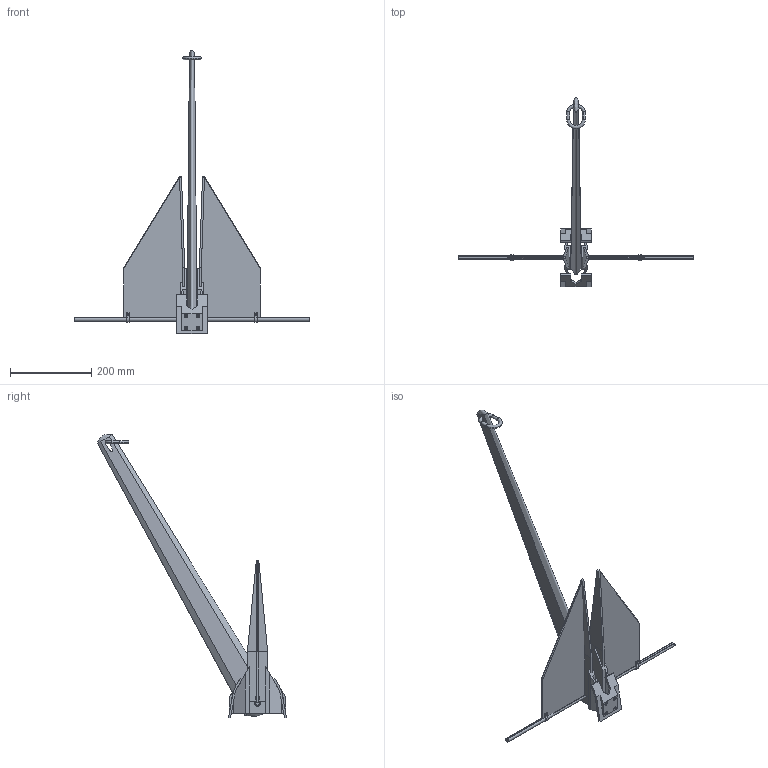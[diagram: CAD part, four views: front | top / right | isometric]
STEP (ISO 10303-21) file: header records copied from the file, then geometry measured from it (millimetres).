
FILE_DESCRIPTION (( 'STEP AP214' ), '1' );
FILE_NAME ('danforth anchor.step', '2013-09-27T15:32:43', ( 'Jared Garber' ), ( '' ), 'SwSTEP 2.0', 'SolidWorks 2011', '' );
FILE_SCHEMA (( 'AUTOMOTIVE_DESIGN' ));
Length unit declared in the file: millimetre
Products named in the file (9): shackle; socket countersunk head cap screw_ai_SCHCSCREW 0.164-32x0.375x0.375-HX-C; tripping palm - top plate; tripping palm; fluke stock mount clip; shank; fluke; stock; danforth anchor
Assembly tree (18 placements, depth 2):
  danforth anchor
    socket countersunk head cap screw_ai_SCHCSCREW 0.164-32x0.375x0.375-HX-C  x8
    tripping palm - top plate  x2
    fluke stock mount clip  x2
    shackle
    stock
    fluke  x2
    shank
    tripping palm
Bounding box: 580 x 465.65 x 698.78 mm (x, y, z)
Volume: 1557049.7 mm3; surface area: 445150.7 mm2
Topology: 18 solids, 18 shells, 444 faces, 1105 edges, 678 vertices
Faces by surface type: plane 270, cylinder 100, cone 64, torus 6, bspline 4
Entity records: 7772 total; most frequent: CARTESIAN_POINT 2045, DIRECTION 1068, ORIENTED_EDGE 1060, EDGE_CURVE 530, LINE 388, VECTOR 388, VERTEX_POINT 341, AXIS2_PLACEMENT_3D 340
